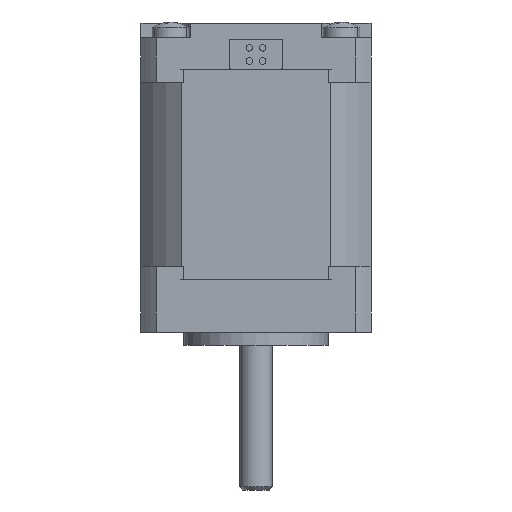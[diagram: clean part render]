
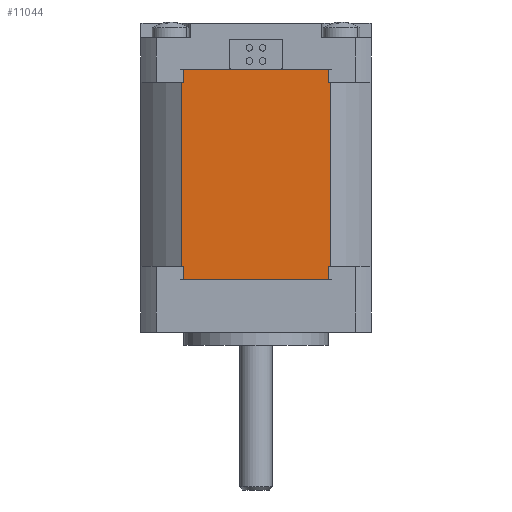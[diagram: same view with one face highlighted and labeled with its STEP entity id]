
A CAD part, front view. The second image highlights one B-rep face of the part: STEP entity #11044.
In plain terms, the highlighted planar face has unit normal (0, -1, 0).
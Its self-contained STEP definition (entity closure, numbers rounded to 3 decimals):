
#93 = VERTEX_POINT ( 'NONE', #16190 ) ;
#194 = VERTEX_POINT ( 'NONE', #529 ) ;
#315 = EDGE_CURVE ( 'NONE', #14359, #14459, #5045, .T. ) ;
#529 = CARTESIAN_POINT ( 'NONE',  ( 11.089, -17.5, 0. ) ) ;
#673 = VECTOR ( 'NONE', #8618, 1000. ) ;
#895 = ORIENTED_EDGE ( 'NONE', *, *, #8037, .F. ) ;
#976 = FACE_OUTER_BOUND ( 'NONE', #3618, .T. ) ;
#1358 = VECTOR ( 'NONE', #1990, 1000. ) ;
#1460 = ORIENTED_EDGE ( 'NONE', *, *, #3967, .T. ) ;
#1543 = CARTESIAN_POINT ( 'NONE',  ( 0., -17.5, 2. ) ) ;
#1990 = DIRECTION ( 'NONE',  ( 0., 0., 1. ) ) ;
#2153 = ORIENTED_EDGE ( 'NONE', *, *, #12642, .F. ) ;
#2193 = CARTESIAN_POINT ( 'NONE',  ( 0., -17.5, 2. ) ) ;
#2203 = CARTESIAN_POINT ( 'NONE',  ( 0., -17.5, 32. ) ) ;
#2479 = CARTESIAN_POINT ( 'NONE',  ( -11.089, -17.5, 2. ) ) ;
#2884 = LINE ( 'NONE', #16955, #6065 ) ;
#3008 = DIRECTION ( 'NONE',  ( -1., 0., 0. ) ) ;
#3251 = LINE ( 'NONE', #6689, #11261 ) ;
#3340 = CARTESIAN_POINT ( 'NONE',  ( 11.089, -17.5, 30. ) ) ;
#3592 = DIRECTION ( 'NONE',  ( 1., 0., 0. ) ) ;
#3618 = EDGE_LOOP ( 'NONE', ( #15178, #7901, #895, #11496, #6318, #2153, #5522, #15672, #17257, #12836, #1460, #8667 ) ) ;
#3663 = PLANE ( 'NONE',  #17105 ) ;
#3894 = CARTESIAN_POINT ( 'NONE',  ( -11.289, -17.5, 30. ) ) ;
#3954 = VECTOR ( 'NONE', #12774, 1000. ) ;
#3967 = EDGE_CURVE ( 'NONE', #13037, #194, #4487, .T. ) ;
#4025 = EDGE_CURVE ( 'NONE', #13037, #4145, #9572, .T. ) ;
#4145 = VERTEX_POINT ( 'NONE', #2479 ) ;
#4315 = CARTESIAN_POINT ( 'NONE',  ( -11.089, -17.5, 0. ) ) ;
#4359 = CARTESIAN_POINT ( 'NONE',  ( 0., -17.5, 0. ) ) ;
#4487 = LINE ( 'NONE', #4359, #673 ) ;
#4611 = VECTOR ( 'NONE', #8823, 1000. ) ;
#4613 = LINE ( 'NONE', #2203, #8440 ) ;
#4632 = DIRECTION ( 'NONE',  ( 0., 0., 1. ) ) ;
#4982 = LINE ( 'NONE', #13978, #1358 ) ;
#5045 = LINE ( 'NONE', #2193, #4611 ) ;
#5522 = ORIENTED_EDGE ( 'NONE', *, *, #17152, .F. ) ;
#5549 = CARTESIAN_POINT ( 'NONE',  ( 11.089, -17.5, 32. ) ) ;
#5994 = VECTOR ( 'NONE', #14873, 1000. ) ;
#6029 = EDGE_CURVE ( 'NONE', #4145, #17369, #9409, .T. ) ;
#6065 = VECTOR ( 'NONE', #10421, 1000. ) ;
#6137 = CARTESIAN_POINT ( 'NONE',  ( -11.089, -17.5, 32. ) ) ;
#6188 = CARTESIAN_POINT ( 'NONE',  ( 0., -17.5, 30. ) ) ;
#6226 = CARTESIAN_POINT ( 'NONE',  ( -11.089, -17.5, 32. ) ) ;
#6318 = ORIENTED_EDGE ( 'NONE', *, *, #16136, .F. ) ;
#6523 = VECTOR ( 'NONE', #4632, 1000. ) ;
#6689 = CARTESIAN_POINT ( 'NONE',  ( 11.289, -17.5, 32. ) ) ;
#7136 = EDGE_CURVE ( 'NONE', #12896, #14359, #3251, .T. ) ;
#7476 = VECTOR ( 'NONE', #12866, 1000. ) ;
#7556 = CARTESIAN_POINT ( 'NONE',  ( -11.289, -17.5, 32. ) ) ;
#7780 = CARTESIAN_POINT ( 'NONE',  ( 11.089, -17.5, 2. ) ) ;
#7901 = ORIENTED_EDGE ( 'NONE', *, *, #7136, .F. ) ;
#8037 = EDGE_CURVE ( 'NONE', #10247, #12896, #2884, .T. ) ;
#8234 = CARTESIAN_POINT ( 'NONE',  ( 11.289, -17.5, 30. ) ) ;
#8361 = VECTOR ( 'NONE', #3008, 1000. ) ;
#8408 = EDGE_CURVE ( 'NONE', #17369, #14018, #4982, .T. ) ;
#8440 = VECTOR ( 'NONE', #3592, 1000. ) ;
#8618 = DIRECTION ( 'NONE',  ( 1., 0., 0. ) ) ;
#8646 = CARTESIAN_POINT ( 'NONE',  ( 11.289, -17.5, 2. ) ) ;
#8667 = ORIENTED_EDGE ( 'NONE', *, *, #15190, .F. ) ;
#8823 = DIRECTION ( 'NONE',  ( -1., 0., 0. ) ) ;
#8962 = DIRECTION ( 'NONE',  ( 0., 1., 0. ) ) ;
#9047 = CARTESIAN_POINT ( 'NONE',  ( -11.089, -17.5, 30. ) ) ;
#9252 = EDGE_CURVE ( 'NONE', #9402, #10247, #11122, .T. ) ;
#9402 = VERTEX_POINT ( 'NONE', #5549 ) ;
#9409 = LINE ( 'NONE', #1543, #8361 ) ;
#9432 = CARTESIAN_POINT ( 'NONE',  ( 11.089, -17.5, 32. ) ) ;
#9567 = LINE ( 'NONE', #9432, #5994 ) ;
#9572 = LINE ( 'NONE', #6226, #7476 ) ;
#9602 = CARTESIAN_POINT ( 'NONE',  ( 11.089, -17.5, 30. ) ) ;
#9865 = LINE ( 'NONE', #6188, #13027 ) ;
#10247 = VERTEX_POINT ( 'NONE', #9602 ) ;
#10421 = DIRECTION ( 'NONE',  ( 1., 0., 0. ) ) ;
#10918 = DIRECTION ( 'NONE',  ( 0., 0., -1. ) ) ;
#11044 = ADVANCED_FACE ( 'NONE', ( #976 ), #3663, .F. ) ;
#11122 = LINE ( 'NONE', #3340, #3954 ) ;
#11261 = VECTOR ( 'NONE', #10918, 1000. ) ;
#11496 = ORIENTED_EDGE ( 'NONE', *, *, #9252, .F. ) ;
#12464 = VERTEX_POINT ( 'NONE', #9047 ) ;
#12642 = EDGE_CURVE ( 'NONE', #12464, #93, #15984, .T. ) ;
#12774 = DIRECTION ( 'NONE',  ( 0., 0., -1. ) ) ;
#12836 = ORIENTED_EDGE ( 'NONE', *, *, #4025, .F. ) ;
#12866 = DIRECTION ( 'NONE',  ( 0., 0., 1. ) ) ;
#12896 = VERTEX_POINT ( 'NONE', #8234 ) ;
#13027 = VECTOR ( 'NONE', #15541, 1000. ) ;
#13037 = VERTEX_POINT ( 'NONE', #4315 ) ;
#13087 = DIRECTION ( 'NONE',  ( 0., 0., 1. ) ) ;
#13413 = CARTESIAN_POINT ( 'NONE',  ( -11.289, -17.5, 2. ) ) ;
#13978 = CARTESIAN_POINT ( 'NONE',  ( -11.289, -17.5, 32. ) ) ;
#14018 = VERTEX_POINT ( 'NONE', #3894 ) ;
#14359 = VERTEX_POINT ( 'NONE', #8646 ) ;
#14459 = VERTEX_POINT ( 'NONE', #7780 ) ;
#14873 = DIRECTION ( 'NONE',  ( 0., 0., -1. ) ) ;
#15178 = ORIENTED_EDGE ( 'NONE', *, *, #315, .F. ) ;
#15190 = EDGE_CURVE ( 'NONE', #14459, #194, #9567, .T. ) ;
#15541 = DIRECTION ( 'NONE',  ( 1., 0., 0. ) ) ;
#15672 = ORIENTED_EDGE ( 'NONE', *, *, #8408, .F. ) ;
#15984 = LINE ( 'NONE', #6137, #6523 ) ;
#16136 = EDGE_CURVE ( 'NONE', #93, #9402, #4613, .T. ) ;
#16190 = CARTESIAN_POINT ( 'NONE',  ( -11.089, -17.5, 32. ) ) ;
#16955 = CARTESIAN_POINT ( 'NONE',  ( -11.289, -17.5, 30. ) ) ;
#17105 = AXIS2_PLACEMENT_3D ( 'NONE', #7556, #8962, #13087 ) ;
#17152 = EDGE_CURVE ( 'NONE', #14018, #12464, #9865, .T. ) ;
#17257 = ORIENTED_EDGE ( 'NONE', *, *, #6029, .F. ) ;
#17369 = VERTEX_POINT ( 'NONE', #13413 ) ;
